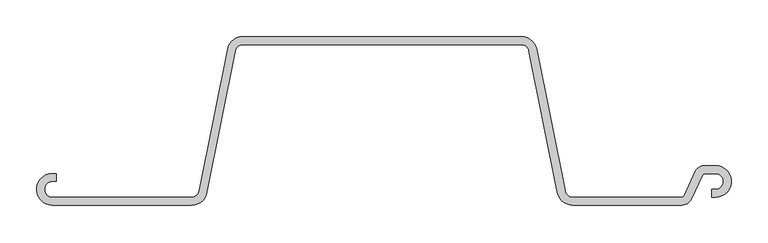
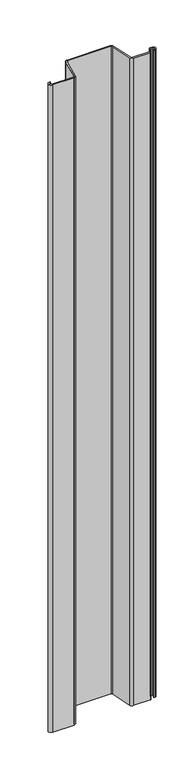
"""IFC4 building model written with IfcOpenShell, lengths in millimetres: proxy geometry, 鋼矢板10H型 : 鋼矢板10H型."""

from ifc_helpers import new_model, si_unit, point, frame, frame_2d, origin, place, context, project, spatial, polyline, circle_curve, trimmed, segment, composite_curve, outline, extrude, source, transform, mapped, element, save


def generic_models_eddb28b0(model_context):
    return source(origin(), model_context, "Body", "SweptSolid", [
        extrude(outline(composite_curve([segment(trimmed(circle_curve(frame_2d((409.1972607, -101.1142857)), 13.8857143), [point((421.7819917, -106.9826421))], [point((409.1972607, -115.0))], False, "CARTESIAN"), True, "CONTINUOUS"), segment(polyline([(409.1972607, -115.0), (260.2008232, -115.0)]), True, "CONTINUOUS"), segment(trimmed(circle_curve(frame_2d((260.2008232, -93.4)), 21.6), [point((260.2008232, -115.0))], [point((239.0202806, -97.6361085))], False, "CARTESIAN"), True, "CONTINUOUS"), segment(polyline([(239.0202806, -97.6361085), (200.3894481, 95.5180543)]), True, "CONTINUOUS"), segment(trimmed(circle_curve(frame_2d((189.7991768, 93.4)), 10.8), [point((200.3894481, 95.5180543))], [point((189.7991768, 104.2))], True, "CARTESIAN"), True, "CONTINUOUS"), segment(polyline([(189.7991768, 104.2), (-189.7991768, 104.2)]), True, "CONTINUOUS"), segment(trimmed(circle_curve(frame_2d((-189.7991768, 93.4)), 10.8), [point((-189.7991768, 104.2))], [point((-200.3894481, 95.5180543))], True, "CARTESIAN"), True, "CONTINUOUS"), segment(polyline([(-200.3894481, 95.5180543), (-239.0202806, -97.6361085)]), True, "CONTINUOUS"), segment(trimmed(circle_curve(frame_2d((-260.2008232, -93.4)), 21.6), [point((-239.0202806, -97.6361085))], [point((-260.2008232, -115.0))], False, "CARTESIAN"), True, "CONTINUOUS"), segment(polyline([(-260.2008232, -115.0), (-450.0, -115.0)]), True, "CONTINUOUS"), segment(trimmed(circle_curve(frame_2d((-450.0, -93.4)), 21.6), [point((-450.0, -115.0))], [point((-450.0, -71.8))], False, "CARTESIAN"), True, "CONTINUOUS"), segment(polyline([(-450.0, -71.8), (-445.0, -71.8), (-445.0, -82.6), (-450.0, -82.6)]), True, "CONTINUOUS"), segment(trimmed(circle_curve(frame_2d((-450.0, -93.4)), 10.8), [point((-450.0, -82.6))], [point((-450.0, -104.2))], True, "CARTESIAN"), True, "CONTINUOUS"), segment(polyline([(-450.0, -104.2), (-260.2008232, -104.2)]), True, "CONTINUOUS"), segment(trimmed(circle_curve(frame_2d((-260.2008232, -93.4)), 10.8), [point((-260.2008232, -104.2))], [point((-249.6105519, -95.5180543))], True, "CARTESIAN"), True, "CONTINUOUS"), segment(polyline([(-249.6105519, -95.5180543), (-210.9797194, 97.6361085)]), True, "CONTINUOUS"), segment(trimmed(circle_curve(frame_2d((-189.7991768, 93.4)), 21.6), [point((-210.9797194, 97.6361085))], [point((-189.7991768, 115.0))], False, "CARTESIAN"), True, "CONTINUOUS"), segment(polyline([(-189.7991768, 115.0), (189.7991768, 115.0)]), True, "CONTINUOUS"), segment(trimmed(circle_curve(frame_2d((189.7991768, 93.4)), 21.6), [point((189.7991768, 115.0))], [point((210.9797194, 97.6361085))], False, "CARTESIAN"), True, "CONTINUOUS"), segment(polyline([(210.9797194, 97.6361085), (249.6105519, -95.5180543)]), True, "CONTINUOUS"), segment(trimmed(circle_curve(frame_2d((260.2008232, -93.4)), 10.8), [point((249.6105519, -95.5180543))], [point((260.2008232, -104.2))], True, "CARTESIAN"), True, "CONTINUOUS"), segment(polyline([(260.2008232, -104.2), (409.1972607, -104.2)]), True, "CONTINUOUS"), segment(trimmed(circle_curve(frame_2d((409.1972607, -101.1142857)), 3.0857143), [point((409.1972607, -104.2))], [point((411.9938676, -102.4183649))], True, "CARTESIAN"), True, "CONTINUOUS"), segment(polyline([(411.9938676, -102.4183649), (427.569013, -69.0173579)]), True, "CONTINUOUS"), segment(trimmed(circle_curve(frame_2d((440.153744, -74.8857143)), 13.8857143), [point((427.569013, -69.0173579))], [point((440.153744, -61.0))], False, "CARTESIAN"), True, "CONTINUOUS"), segment(polyline([(440.153744, -61.0), (455.0, -61.0)]), True, "CONTINUOUS"), segment(trimmed(circle_curve(frame_2d((455.0, -82.6)), 21.6), [point((455.0, -61.0))], [point((455.0, -104.2))], False, "CARTESIAN"), True, "CONTINUOUS"), segment(polyline([(455.0, -104.2), (450.0, -104.2), (450.0, -93.4), (455.0, -93.4)]), True, "CONTINUOUS"), segment(trimmed(circle_curve(frame_2d((455.0, -82.6)), 10.8), [point((455.0, -93.4))], [point((455.0, -71.8))], True, "CARTESIAN"), True, "CONTINUOUS"), segment(polyline([(455.0, -71.8), (440.153744, -71.8)]), True, "CONTINUOUS"), segment(trimmed(circle_curve(frame_2d((440.153744, -74.8857143)), 3.0857143), [point((440.153744, -71.8))], [point((437.3571371, -73.5816351))], True, "CARTESIAN"), True, "CONTINUOUS"), segment(polyline([(437.3571371, -73.5816351), (421.7819917, -106.9826421)]), True, "CONTINUOUS")], self_intersect=False)), frame((0.0, 0.0, -6000.0), z_axis=(0.0, 0.0, 1.0), x_axis=(1.0, 0.0, 0.0)), (0.0, 0.0, 1.0), 6000.0),
    ])


if __name__ == "__main__":
    model = new_model("IFC4")
    model_context = context("Model", 3, world=origin())
    ifc_project = project(units=[si_unit("LENGTHUNIT", "METRE", prefix="MILLI")], contexts=[model_context])
    site = spatial("IfcSite", under=ifc_project)
    building = spatial("IfcBuilding", under=site)
    placement = place(None, origin())
    generic_models_shape = generic_models_eddb28b0(model_context)
    element("IfcBuildingElementProxy", 1, Name="鋼矢板10H型 : 鋼矢板10H型", ObjectType="鋼矢板10H型 : 鋼矢板10H型", at=placement, inside=building, context=model_context, shape_type="MappedRepresentation", body=[
        mapped(generic_models_shape, transform((0.0, 0.0, 0.0), x_axis=(1.0, 0.0, 0.0), y_axis=(0.0, 1.0, 0.0), z_axis=(0.0, 0.0, 1.0))),
    ])
    save(model, "model.ifc")
